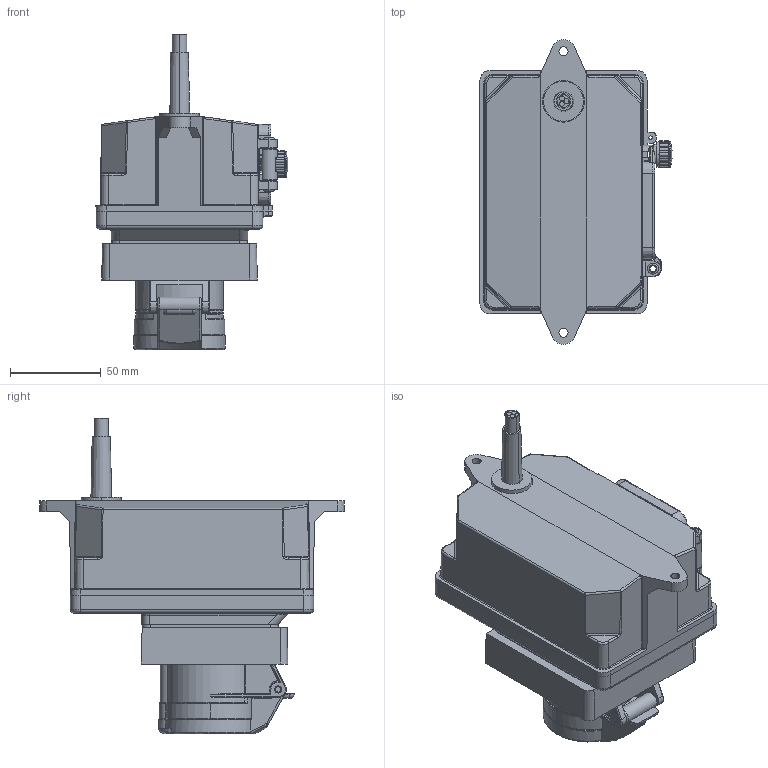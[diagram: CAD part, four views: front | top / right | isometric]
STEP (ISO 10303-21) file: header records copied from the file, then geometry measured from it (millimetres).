
FILE_DESCRIPTION (( 'STEP AP203' ), '1' );
FILE_NAME ('3D - HSW4043 Außenkontur.STEP', '2019-07-25T08:58:33', ( '' ), ( '' ), 'SwSTEP 2.0', 'SolidWorks 2013', '' );
FILE_SCHEMA (( 'CONFIG_CONTROL_DESIGN' ));
Length unit declared in the file: millimetre
Products named in the file (1): 3D - HSW4043 Außenkontur
Bounding box: 105.82 x 168 x 174 mm (x, y, z)
Surface area: 90967.3 mm2 (no closed solid volume)
Topology: 0 solids, 29 shells, 862 faces, 3055 edges, 2099 vertices
Faces by surface type: cylinder 320, plane 237, torus 118, bspline 87, cone 67, sphere 33
Entity records: 39142 total; most frequent: CARTESIAN_POINT 14454, DIRECTION 4939, ORIENTED_EDGE 4850, EDGE_CURVE 3040, VERTEX_POINT 2098, AXIS2_PLACEMENT_3D 1825, LINE 1289, VECTOR 1289
